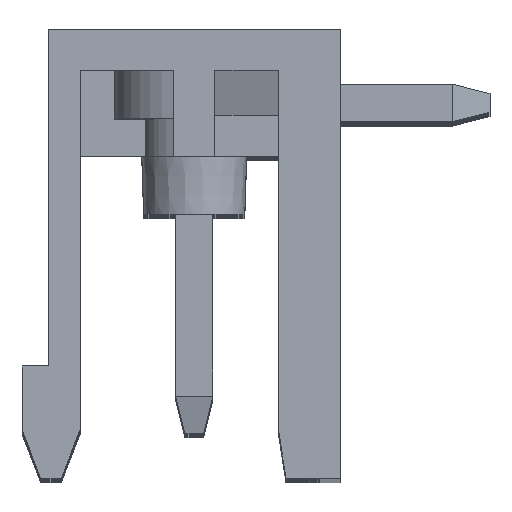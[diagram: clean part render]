
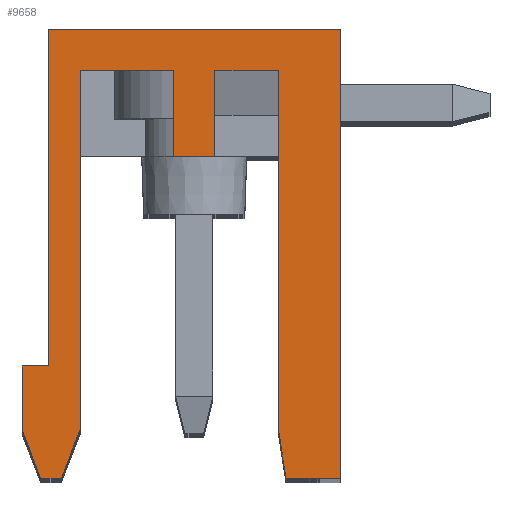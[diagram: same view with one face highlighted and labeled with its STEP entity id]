
A CAD part, top view. The second image highlights one B-rep face of the part: STEP entity #9658.
In plain terms, the highlighted planar face has unit normal (0, 0, 1).
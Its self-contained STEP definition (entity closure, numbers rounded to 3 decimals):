
#116 = VERTEX_POINT ( 'NONE', #3759 ) ;
#183 = CARTESIAN_POINT ( 'NONE',  ( 0.55, 10.9, 71.12 ) ) ;
#208 = FACE_OUTER_BOUND ( 'NONE', #23051, .T. ) ;
#1063 = CARTESIAN_POINT ( 'NONE',  ( 3.9, 12., 71.12 ) ) ;
#1337 = AXIS2_PLACEMENT_3D ( 'NONE', #11020, #21308, #18820 ) ;
#1643 = LINE ( 'NONE', #28603, #18714 ) ;
#1882 = LINE ( 'NONE', #26348, #7905 ) ;
#1892 = EDGE_CURVE ( 'NONE', #17125, #21277, #16279, .T. ) ;
#2069 = CARTESIAN_POINT ( 'NONE',  ( -4.1, 0., 71.12 ) ) ;
#2501 = EDGE_CURVE ( 'NONE', #14295, #23668, #27582, .T. ) ;
#2718 = LINE ( 'NONE', #27358, #26539 ) ;
#3287 = LINE ( 'NONE', #19245, #25628 ) ;
#3759 = CARTESIAN_POINT ( 'NONE',  ( -3.05, 1.3, 71.12 ) ) ;
#4618 = EDGE_CURVE ( 'NONE', #25192, #24924, #2718, .T. ) ;
#4868 = CARTESIAN_POINT ( 'NONE',  ( 2.25, 10.9, 71.12 ) ) ;
#4947 = ORIENTED_EDGE ( 'NONE', *, *, #14176, .T. ) ;
#4954 = CARTESIAN_POINT ( 'NONE',  ( -3.9, 3., 71.12 ) ) ;
#5087 = CARTESIAN_POINT ( 'NONE',  ( -0.55, 10.9, 71.12 ) ) ;
#5952 = DIRECTION ( 'NONE',  ( -1., 0., 0. ) ) ;
#6607 = VECTOR ( 'NONE', #12370, 1000. ) ;
#6663 = VECTOR ( 'NONE', #21799, 1000. ) ;
#6702 = CARTESIAN_POINT ( 'NONE',  ( 2.45, 0., 71.12 ) ) ;
#7037 = VECTOR ( 'NONE', #5952, 1000. ) ;
#7047 = CARTESIAN_POINT ( 'NONE',  ( -3.9, 12., 71.12 ) ) ;
#7272 = EDGE_CURVE ( 'NONE', #21277, #26121, #19955, .T. ) ;
#7302 = EDGE_CURVE ( 'NONE', #29496, #116, #1882, .T. ) ;
#7645 = EDGE_CURVE ( 'NONE', #20631, #18711, #9721, .T. ) ;
#7905 = VECTOR ( 'NONE', #15702, 1000. ) ;
#8224 = ORIENTED_EDGE ( 'NONE', *, *, #2501, .T. ) ;
#8447 = LINE ( 'NONE', #22086, #7037 ) ;
#8791 = CARTESIAN_POINT ( 'NONE',  ( 0.55, 8.6, 71.12 ) ) ;
#9658 = ADVANCED_FACE ( 'NONE', ( #208 ), #10509, .T. ) ;
#9716 = ORIENTED_EDGE ( 'NONE', *, *, #16656, .F. ) ;
#9721 = LINE ( 'NONE', #20518, #18672 ) ;
#10509 = PLANE ( 'NONE',  #1337 ) ;
#11020 = CARTESIAN_POINT ( 'NONE',  ( -10.2, 16.267, 71.12 ) ) ;
#11280 = DIRECTION ( 'NONE',  ( -1., 0., 0. ) ) ;
#11678 = LINE ( 'NONE', #19465, #30549 ) ;
#12031 = CARTESIAN_POINT ( 'NONE',  ( 0.55, 8.6, 71.12 ) ) ;
#12370 = DIRECTION ( 'NONE',  ( 1., 0., 0. ) ) ;
#12523 = CARTESIAN_POINT ( 'NONE',  ( -4.1, 0., 71.12 ) ) ;
#12744 = VERTEX_POINT ( 'NONE', #4954 ) ;
#13404 = EDGE_CURVE ( 'NONE', #20352, #17125, #29802, .T. ) ;
#13416 = ORIENTED_EDGE ( 'NONE', *, *, #34946, .T. ) ;
#14098 = CARTESIAN_POINT ( 'NONE',  ( -0.55, 10.9, 71.12 ) ) ;
#14176 = EDGE_CURVE ( 'NONE', #26121, #24690, #28158, .T. ) ;
#14290 = DIRECTION ( 'NONE',  ( 0., 1., 0. ) ) ;
#14295 = VERTEX_POINT ( 'NONE', #5087 ) ;
#14303 = VECTOR ( 'NONE', #14290, 1000. ) ;
#14967 = ORIENTED_EDGE ( 'NONE', *, *, #4618, .T. ) ;
#15702 = DIRECTION ( 'NONE',  ( 0., -1., 0. ) ) ;
#16279 = LINE ( 'NONE', #21944, #28674 ) ;
#16584 = CARTESIAN_POINT ( 'NONE',  ( -0.55, 8.6, 71.12 ) ) ;
#16656 = EDGE_CURVE ( 'NONE', #20631, #24924, #26195, .T. ) ;
#16714 = CARTESIAN_POINT ( 'NONE',  ( -3.9, 12., 71.12 ) ) ;
#16978 = ORIENTED_EDGE ( 'NONE', *, *, #1892, .T. ) ;
#17125 = VERTEX_POINT ( 'NONE', #4868 ) ;
#17245 = ORIENTED_EDGE ( 'NONE', *, *, #7272, .T. ) ;
#17691 = LINE ( 'NONE', #12031, #34091 ) ;
#17850 = DIRECTION ( 'NONE',  ( 1., 0., 0. ) ) ;
#18185 = ORIENTED_EDGE ( 'NONE', *, *, #13404, .T. ) ;
#18640 = CARTESIAN_POINT ( 'NONE',  ( -3.05, 10.9, 71.12 ) ) ;
#18672 = VECTOR ( 'NONE', #17850, 1000. ) ;
#18711 = VERTEX_POINT ( 'NONE', #33919 ) ;
#18714 = VECTOR ( 'NONE', #26286, 1000. ) ;
#18748 = EDGE_CURVE ( 'NONE', #116, #18711, #1643, .T. ) ;
#18820 = DIRECTION ( 'NONE',  ( 1., 0., 0. ) ) ;
#19083 = LINE ( 'NONE', #8791, #14303 ) ;
#19099 = VECTOR ( 'NONE', #29048, 1000. ) ;
#19222 = EDGE_CURVE ( 'NONE', #14295, #29496, #29574, .T. ) ;
#19245 = CARTESIAN_POINT ( 'NONE',  ( 3.9, 12., 71.12 ) ) ;
#19465 = CARTESIAN_POINT ( 'NONE',  ( 3.9, 0., 71.12 ) ) ;
#19646 = ORIENTED_EDGE ( 'NONE', *, *, #20147, .F. ) ;
#19659 = ORIENTED_EDGE ( 'NONE', *, *, #28658, .T. ) ;
#19782 = VERTEX_POINT ( 'NONE', #16714 ) ;
#19955 = LINE ( 'NONE', #25464, #20906 ) ;
#20147 = EDGE_CURVE ( 'NONE', #34956, #23668, #17691, .T. ) ;
#20172 = DIRECTION ( 'NONE',  ( -1., 0., 0. ) ) ;
#20352 = VERTEX_POINT ( 'NONE', #31728 ) ;
#20518 = CARTESIAN_POINT ( 'NONE',  ( -4.1, 0., 71.12 ) ) ;
#20631 = VERTEX_POINT ( 'NONE', #12523 ) ;
#20906 = VECTOR ( 'NONE', #30804, 1000. ) ;
#21027 = ORIENTED_EDGE ( 'NONE', *, *, #18748, .F. ) ;
#21277 = VERTEX_POINT ( 'NONE', #22174 ) ;
#21308 = DIRECTION ( 'NONE',  ( 0., 0., 1. ) ) ;
#21799 = DIRECTION ( 'NONE',  ( 1., 0., 0. ) ) ;
#21944 = CARTESIAN_POINT ( 'NONE',  ( 2.25, 10.9, 71.12 ) ) ;
#22078 = CARTESIAN_POINT ( 'NONE',  ( -0.55, 10.9, 71.12 ) ) ;
#22086 = CARTESIAN_POINT ( 'NONE',  ( -3.9, 3., 71.12 ) ) ;
#22174 = CARTESIAN_POINT ( 'NONE',  ( 2.25, 1.3, 71.12 ) ) ;
#22602 = DIRECTION ( 'NONE',  ( 0., -1., 0. ) ) ;
#23051 = EDGE_LOOP ( 'NONE', ( #32090, #29188, #19659, #23062, #14967, #9716, #24409, #21027, #32709, #28650, #8224, #19646, #13416, #18185, #16978, #17245, #4947 ) ) ;
#23062 = ORIENTED_EDGE ( 'NONE', *, *, #24797, .T. ) ;
#23668 = VERTEX_POINT ( 'NONE', #16584 ) ;
#23685 = EDGE_CURVE ( 'NONE', #28084, #19782, #3287, .T. ) ;
#24409 = ORIENTED_EDGE ( 'NONE', *, *, #7645, .T. ) ;
#24422 = CARTESIAN_POINT ( 'NONE',  ( 0.55, 8.6, 71.12 ) ) ;
#24625 = CARTESIAN_POINT ( 'NONE',  ( 2.45, 0., 71.12 ) ) ;
#24690 = VERTEX_POINT ( 'NONE', #29748 ) ;
#24797 = EDGE_CURVE ( 'NONE', #12744, #25192, #8447, .T. ) ;
#24890 = CARTESIAN_POINT ( 'NONE',  ( -4.6, 3., 71.12 ) ) ;
#24924 = VERTEX_POINT ( 'NONE', #25814 ) ;
#25044 = DIRECTION ( 'NONE',  ( 0., -1., 0. ) ) ;
#25192 = VERTEX_POINT ( 'NONE', #24890 ) ;
#25464 = CARTESIAN_POINT ( 'NONE',  ( 2.25, 1.3, 71.12 ) ) ;
#25628 = VECTOR ( 'NONE', #11280, 1000. ) ;
#25814 = CARTESIAN_POINT ( 'NONE',  ( -4.6, 1.3, 71.12 ) ) ;
#26121 = VERTEX_POINT ( 'NONE', #24625 ) ;
#26195 = LINE ( 'NONE', #2069, #33916 ) ;
#26286 = DIRECTION ( 'NONE',  ( -0.359, -0.933, 0. ) ) ;
#26348 = CARTESIAN_POINT ( 'NONE',  ( -3.05, 10.9, 71.12 ) ) ;
#26539 = VECTOR ( 'NONE', #25044, 1000. ) ;
#26682 = VECTOR ( 'NONE', #29911, 1000. ) ;
#27358 = CARTESIAN_POINT ( 'NONE',  ( -4.6, 3., 71.12 ) ) ;
#27582 = LINE ( 'NONE', #14098, #28692 ) ;
#28084 = VERTEX_POINT ( 'NONE', #1063 ) ;
#28158 = LINE ( 'NONE', #6702, #6607 ) ;
#28603 = CARTESIAN_POINT ( 'NONE',  ( -3.05, 1.3, 71.12 ) ) ;
#28650 = ORIENTED_EDGE ( 'NONE', *, *, #19222, .F. ) ;
#28658 = EDGE_CURVE ( 'NONE', #19782, #12744, #28869, .T. ) ;
#28674 = VECTOR ( 'NONE', #32780, 1000. ) ;
#28692 = VECTOR ( 'NONE', #22602, 1000. ) ;
#28869 = LINE ( 'NONE', #7047, #19099 ) ;
#29048 = DIRECTION ( 'NONE',  ( 0., -1., 0. ) ) ;
#29188 = ORIENTED_EDGE ( 'NONE', *, *, #23685, .T. ) ;
#29496 = VERTEX_POINT ( 'NONE', #18640 ) ;
#29574 = LINE ( 'NONE', #22078, #26682 ) ;
#29748 = CARTESIAN_POINT ( 'NONE',  ( 3.9, 0., 71.12 ) ) ;
#29802 = LINE ( 'NONE', #183, #6663 ) ;
#29911 = DIRECTION ( 'NONE',  ( -1., 0., 0. ) ) ;
#30487 = DIRECTION ( 'NONE',  ( 0., 1., 0. ) ) ;
#30549 = VECTOR ( 'NONE', #30487, 1000. ) ;
#30804 = DIRECTION ( 'NONE',  ( 0.152, -0.988, 0. ) ) ;
#31728 = CARTESIAN_POINT ( 'NONE',  ( 0.55, 10.9, 71.12 ) ) ;
#32090 = ORIENTED_EDGE ( 'NONE', *, *, #32181, .T. ) ;
#32181 = EDGE_CURVE ( 'NONE', #24690, #28084, #11678, .T. ) ;
#32709 = ORIENTED_EDGE ( 'NONE', *, *, #7302, .F. ) ;
#32780 = DIRECTION ( 'NONE',  ( 0., -1., 0. ) ) ;
#33916 = VECTOR ( 'NONE', #34542, 1000. ) ;
#33919 = CARTESIAN_POINT ( 'NONE',  ( -3.55, 0., 71.12 ) ) ;
#34091 = VECTOR ( 'NONE', #20172, 1000. ) ;
#34542 = DIRECTION ( 'NONE',  ( -0.359, 0.933, 0. ) ) ;
#34946 = EDGE_CURVE ( 'NONE', #34956, #20352, #19083, .T. ) ;
#34956 = VERTEX_POINT ( 'NONE', #24422 ) ;
